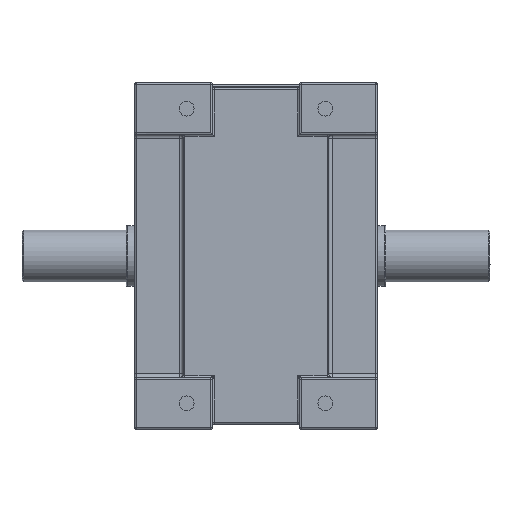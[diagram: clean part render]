
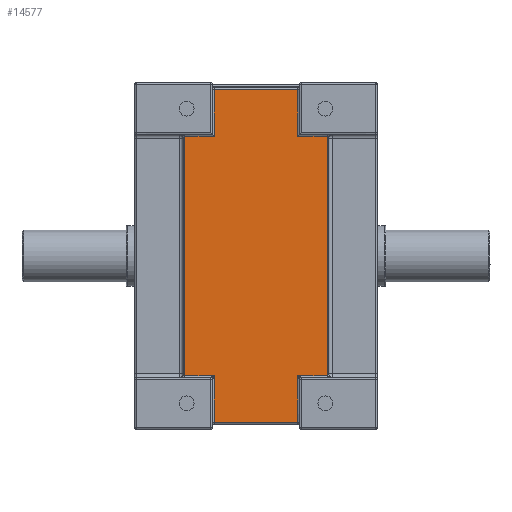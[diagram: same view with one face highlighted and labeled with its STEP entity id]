
A CAD part, front view. The second image highlights one B-rep face of the part: STEP entity #14577.
In plain terms, the highlighted planar face has unit normal (0, -1, 0).
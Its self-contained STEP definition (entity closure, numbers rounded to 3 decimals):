
#4241=CARTESIAN_POINT('',(24.,-139.5,-169.));
#4257=DIRECTION('',(-1.,0.,0.));
#4258=VECTOR('',#4257,17.172);
#4259=CARTESIAN_POINT('',(41.172,-139.5,-169.));
#4260=LINE('',#4259,#4258);
#4261=DIRECTION('',(0.,0.,-1.));
#4262=VECTOR('',#4261,27.);
#4263=CARTESIAN_POINT('',(24.,-139.5,-169.));
#4264=LINE('',#4263,#4262);
#4265=DIRECTION('',(-1.,0.,0.));
#4266=VECTOR('',#4265,48.);
#4267=CARTESIAN_POINT('',(24.,-139.5,-196.));
#4268=LINE('',#4267,#4266);
#4269=DIRECTION('',(0.,0.,1.));
#4270=VECTOR('',#4269,27.);
#4271=CARTESIAN_POINT('',(-24.,-139.5,-196.));
#4272=LINE('',#4271,#4270);
#4273=DIRECTION('',(-1.,0.,0.));
#4274=VECTOR('',#4273,17.172);
#4275=CARTESIAN_POINT('',(-24.,-139.5,-169.));
#4276=LINE('',#4275,#4274);
#4277=CARTESIAN_POINT('',(-44.,-139.5,-168.));
#4278=DIRECTION('',(0.,-1.,0.));
#4279=DIRECTION('',(0.943,0.,-0.333));
#4280=AXIS2_PLACEMENT_3D('',#4277,#4278,#4279);
#4282=DIRECTION('',(0.,0.,1.));
#4283=VECTOR('',#4282,136.);
#4284=CARTESIAN_POINT('',(-41.,-139.5,-168.));
#4285=LINE('',#4284,#4283);
#4286=CARTESIAN_POINT('',(-44.,-139.5,-32.));
#4287=DIRECTION('',(0.,-1.,0.));
#4288=DIRECTION('',(1.,0.,0.));
#4289=AXIS2_PLACEMENT_3D('',#4286,#4287,#4288);
#4291=DIRECTION('',(1.,0.,0.));
#4292=VECTOR('',#4291,17.172);
#4293=CARTESIAN_POINT('',(-41.172,-139.5,-31.));
#4294=LINE('',#4293,#4292);
#4295=DIRECTION('',(0.,0.,-1.));
#4296=VECTOR('',#4295,27.);
#4297=CARTESIAN_POINT('',(-24.,-139.5,-4.));
#4298=LINE('',#4297,#4296);
#4299=DIRECTION('',(1.,0.,0.));
#4300=VECTOR('',#4299,48.);
#4301=CARTESIAN_POINT('',(-24.,-139.5,-4.));
#4302=LINE('',#4301,#4300);
#4303=DIRECTION('',(0.,0.,-1.));
#4304=VECTOR('',#4303,27.);
#4305=CARTESIAN_POINT('',(24.,-139.5,-4.));
#4306=LINE('',#4305,#4304);
#4307=DIRECTION('',(1.,0.,0.));
#4308=VECTOR('',#4307,17.172);
#4309=CARTESIAN_POINT('',(24.,-139.5,-31.));
#4310=LINE('',#4309,#4308);
#4311=CARTESIAN_POINT('',(44.,-139.5,-32.));
#4312=DIRECTION('',(0.,-1.,0.));
#4313=DIRECTION('',(-0.943,0.,0.333));
#4314=AXIS2_PLACEMENT_3D('',#4311,#4312,#4313);
#4316=DIRECTION('',(0.,0.,-1.));
#4317=VECTOR('',#4316,136.);
#4318=CARTESIAN_POINT('',(41.,-139.5,-32.));
#4319=LINE('',#4318,#4317);
#4320=CARTESIAN_POINT('',(44.,-139.5,-168.));
#4321=DIRECTION('',(0.,-1.,0.));
#4322=DIRECTION('',(-1.,0.,0.));
#4323=AXIS2_PLACEMENT_3D('',#4320,#4321,#4322);
#4325=CARTESIAN_POINT('',(-24.,-139.5,-169.));
#4357=CARTESIAN_POINT('',(-41.172,-139.5,-169.));
#4942=CARTESIAN_POINT('',(41.172,-139.5,-31.));
#5042=CARTESIAN_POINT('',(41.172,-139.5,-169.));
#5878=CARTESIAN_POINT('',(-41.172,-139.5,-31.));
#7364=CARTESIAN_POINT('',(-41.,-139.5,-168.));
#7365=CARTESIAN_POINT('',(-41.,-139.5,-32.));
#7366=VERTEX_POINT('',#7364);
#7367=VERTEX_POINT('',#7365);
#7442=CARTESIAN_POINT('',(41.,-139.5,-32.));
#7443=CARTESIAN_POINT('',(41.,-139.5,-168.));
#7444=VERTEX_POINT('',#7442);
#7445=VERTEX_POINT('',#7443);
#7580=VERTEX_POINT('',#5042);
#7589=CARTESIAN_POINT('',(24.,-139.5,-196.));
#7591=VERTEX_POINT('',#7589);
#7597=VERTEX_POINT('',#4357);
#7601=CARTESIAN_POINT('',(-24.,-139.5,-196.));
#7603=VERTEX_POINT('',#7601);
#7617=CARTESIAN_POINT('',(24.,-139.5,-4.));
#7619=VERTEX_POINT('',#7617);
#7624=CARTESIAN_POINT('',(24.,-139.5,-31.));
#7625=VERTEX_POINT('',#7624);
#7628=VERTEX_POINT('',#4942);
#7636=CARTESIAN_POINT('',(-24.,-139.5,-4.));
#7638=VERTEX_POINT('',#7636);
#7641=CARTESIAN_POINT('',(-24.,-139.5,-31.));
#7642=VERTEX_POINT('',#7641);
#7645=VERTEX_POINT('',#5878);
#7722=VERTEX_POINT('',#4325);
#7733=VERTEX_POINT('',#4241);
#14541=CARTESIAN_POINT('',(0.,-139.5,0.));
#14542=DIRECTION('',(0.,-1.,0.));
#14543=DIRECTION('',(1.,0.,0.));
#14544=AXIS2_PLACEMENT_3D('',#14541,#14542,#14543);
#14545=PLANE('',#14544);
#14546=ORIENTED_EDGE('',*,*,#14532,.T.);
#14547=ORIENTED_EDGE('',*,*,#14464,.T.);
#14548=ORIENTED_EDGE('',*,*,#14434,.T.);
#14550=ORIENTED_EDGE('',*,*,#14549,.T.);
#14552=ORIENTED_EDGE('',*,*,#14551,.T.);
#14554=ORIENTED_EDGE('',*,*,#14553,.T.);
#14556=ORIENTED_EDGE('',*,*,#14555,.T.);
#14558=ORIENTED_EDGE('',*,*,#14557,.T.);
#14560=ORIENTED_EDGE('',*,*,#14559,.T.);
#14562=ORIENTED_EDGE('',*,*,#14561,.F.);
#14564=ORIENTED_EDGE('',*,*,#14563,.T.);
#14566=ORIENTED_EDGE('',*,*,#14565,.T.);
#14568=ORIENTED_EDGE('',*,*,#14567,.T.);
#14570=ORIENTED_EDGE('',*,*,#14569,.T.);
#14572=ORIENTED_EDGE('',*,*,#14571,.T.);
#14574=ORIENTED_EDGE('',*,*,#14573,.T.);
#14575=EDGE_LOOP('',(#14546,#14547,#14548,#14550,#14552,#14554,#14556,#14558,
#14560,#14562,#14564,#14566,#14568,#14570,#14572,#14574));
#14576=FACE_OUTER_BOUND('',#14575,.F.);
#4281=CIRCLE('',#4280,3.);
#4290=CIRCLE('',#4289,3.);
#4315=CIRCLE('',#4314,3.);
#4324=CIRCLE('',#4323,3.);
#14434=EDGE_CURVE('',#7591,#7603,#4268,.T.);
#14464=EDGE_CURVE('',#7733,#7591,#4264,.T.);
#14532=EDGE_CURVE('',#7580,#7733,#4260,.T.);
#14549=EDGE_CURVE('',#7603,#7722,#4272,.T.);
#14551=EDGE_CURVE('',#7722,#7597,#4276,.T.);
#14553=EDGE_CURVE('',#7597,#7366,#4281,.T.);
#14555=EDGE_CURVE('',#7366,#7367,#4285,.T.);
#14557=EDGE_CURVE('',#7367,#7645,#4290,.T.);
#14559=EDGE_CURVE('',#7645,#7642,#4294,.T.);
#14561=EDGE_CURVE('',#7638,#7642,#4298,.T.);
#14563=EDGE_CURVE('',#7638,#7619,#4302,.T.);
#14565=EDGE_CURVE('',#7619,#7625,#4306,.T.);
#14567=EDGE_CURVE('',#7625,#7628,#4310,.T.);
#14569=EDGE_CURVE('',#7628,#7444,#4315,.T.);
#14571=EDGE_CURVE('',#7444,#7445,#4319,.T.);
#14573=EDGE_CURVE('',#7445,#7580,#4324,.T.);
#14577=ADVANCED_FACE('',(#14576),#14545,.T.);
